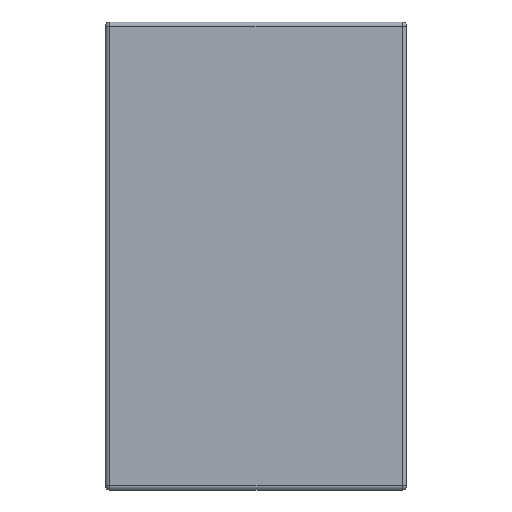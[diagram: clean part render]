
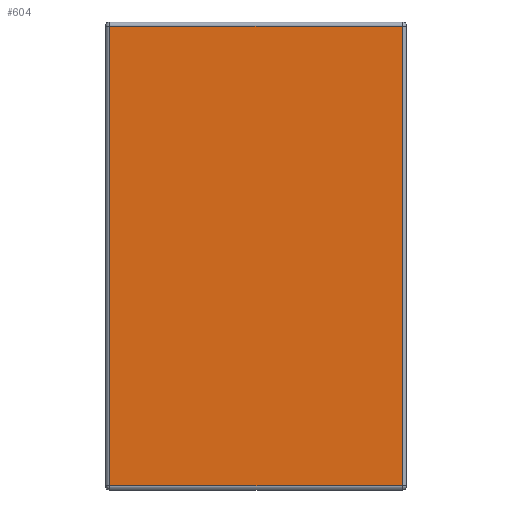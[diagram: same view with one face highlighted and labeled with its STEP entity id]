
A CAD part, front view. The second image highlights one B-rep face of the part: STEP entity #604.
In plain terms, the highlighted planar face has unit normal (0, -1, 0).
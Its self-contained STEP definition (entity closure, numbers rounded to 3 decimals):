
#40=PLANE('',#700);
#78=FACE_OUTER_BOUND('',#126,.T.);
#126=EDGE_LOOP('',(#508,#509,#510,#511));
#157=LINE('',#1015,#200);
#159=LINE('',#1023,#202);
#161=LINE('',#1033,#204);
#163=LINE('',#1042,#206);
#200=VECTOR('',#825,10.);
#202=VECTOR('',#833,10.);
#204=VECTOR('',#845,10.);
#206=VECTOR('',#857,10.);
#288=VERTEX_POINT('',#1008);
#291=VERTEX_POINT('',#1013);
#292=VERTEX_POINT('',#1017);
#295=VERTEX_POINT('',#1027);
#354=EDGE_CURVE('',#291,#288,#157,.T.);
#358=EDGE_CURVE('',#288,#292,#159,.T.);
#363=EDGE_CURVE('',#292,#295,#161,.T.);
#368=EDGE_CURVE('',#295,#291,#163,.T.);
#508=ORIENTED_EDGE('',*,*,#354,.F.);
#509=ORIENTED_EDGE('',*,*,#368,.F.);
#510=ORIENTED_EDGE('',*,*,#363,.F.);
#511=ORIENTED_EDGE('',*,*,#358,.F.);
#604=ADVANCED_FACE('',(#78),#40,.T.);
#700=AXIS2_PLACEMENT_3D('',#1065,#885,#886);
#825=DIRECTION('',(0.,0.,1.));
#833=DIRECTION('',(1.,0.,0.));
#845=DIRECTION('',(0.,0.,-1.));
#857=DIRECTION('',(-1.,0.,0.));
#885=DIRECTION('center_axis',(0.,-1.,0.));
#886=DIRECTION('ref_axis',(0.,0.,-1.));
#1008=CARTESIAN_POINT('',(-36.584,0.,-0.5));
#1013=CARTESIAN_POINT('',(-36.584,0.,-57.158));
#1015=CARTESIAN_POINT('',(-36.584,0.,-43.244));
#1017=CARTESIAN_POINT('',(-0.5,0.,-0.5));
#1023=CARTESIAN_POINT('',(-27.813,0.,-0.5));
#1027=CARTESIAN_POINT('',(-0.5,0.,-57.158));
#1033=CARTESIAN_POINT('',(-0.5,0.,-14.415));
#1042=CARTESIAN_POINT('',(-9.271,0.,-57.158));
#1065=CARTESIAN_POINT('Origin',(-18.542,0.,-28.829));
